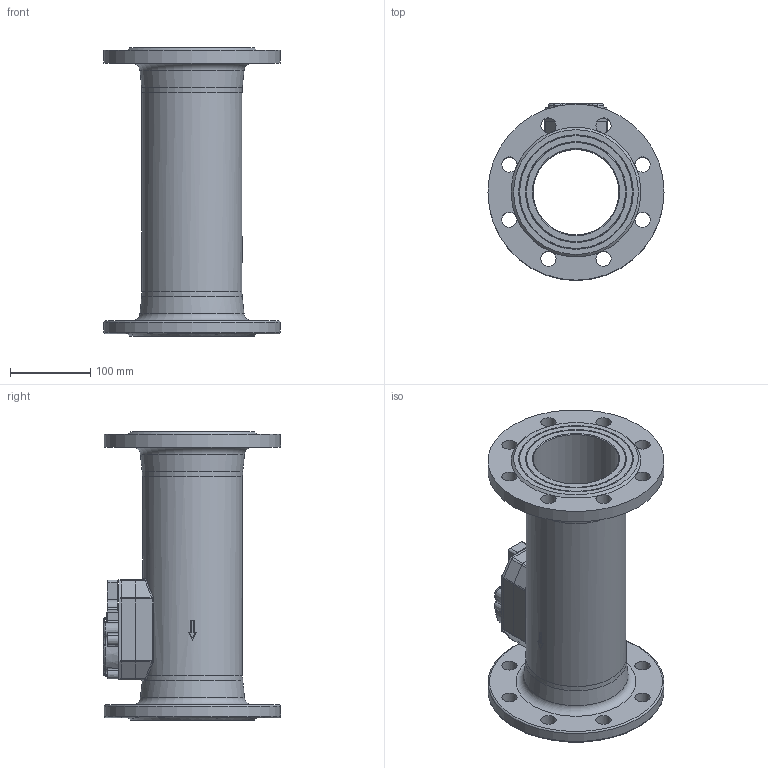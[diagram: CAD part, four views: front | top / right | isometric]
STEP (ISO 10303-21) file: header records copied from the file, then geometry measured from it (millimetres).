
FILE_DESCRIPTION( ( 'Unknown' ), '1' );
FILE_NAME( 'H:/440 pour vente_mai_2013/step_2/DN100_PN16_inox et fonte_360mm_rempli.stp', 'Unknown', ( 'Unknown' ), ( 'Unknown' ), 'PSStep 15.0.49', 'Unknown', ' ' );
FILE_SCHEMA( ( 'AUTOMOTIVE_DESIGN { 1 0 10303 214 1 1 1 1 }' ) );
Length unit declared in the file: millimetre
Products named in the file (6): 440_tête_rempli; 0440P011_rempli; 0440P012_rempli; 0440P060_rempli; Assem1; 0440P404_rempli
Assembly tree (5 placements, depth 3):
  Assem1
    0440P404_rempli
    440_tête_rempli
      0440P011_rempli
      0440P012_rempli
      0440P060_rempli
Bounding box: 220 x 221.2 x 360 mm (x, y, z)
Volume: 2362093.8 mm3; surface area: 452500.3 mm2
Topology: 4 solids, 9 shells, 335 faces, 848 edges, 512 vertices
Faces by surface type: plane 112, cylinder 87, cone 64, torus 41, bspline 31
Full cylindrical faces by diameter (mm): 2.2 x1, 2.459 x2, 2.5 x1, 3.242 x4, 4.1 x1, 5.03 x1, 6.2 x6, 6.917 x2, 10.2 x2, 19 x16, 107 x1, 110 x1, 111 x1, 125 x1, 220 x2
Entity records: 16995 total; most frequent: CARTESIAN_POINT 6694, DIRECTION 1637, ORIENTED_EDGE 1438, EDGE_CURVE 719, AXIS2_PLACEMENT_3D 689, VERTEX_POINT 479, EDGE_LOOP 456, FACE_OUTER_BOUND 386
